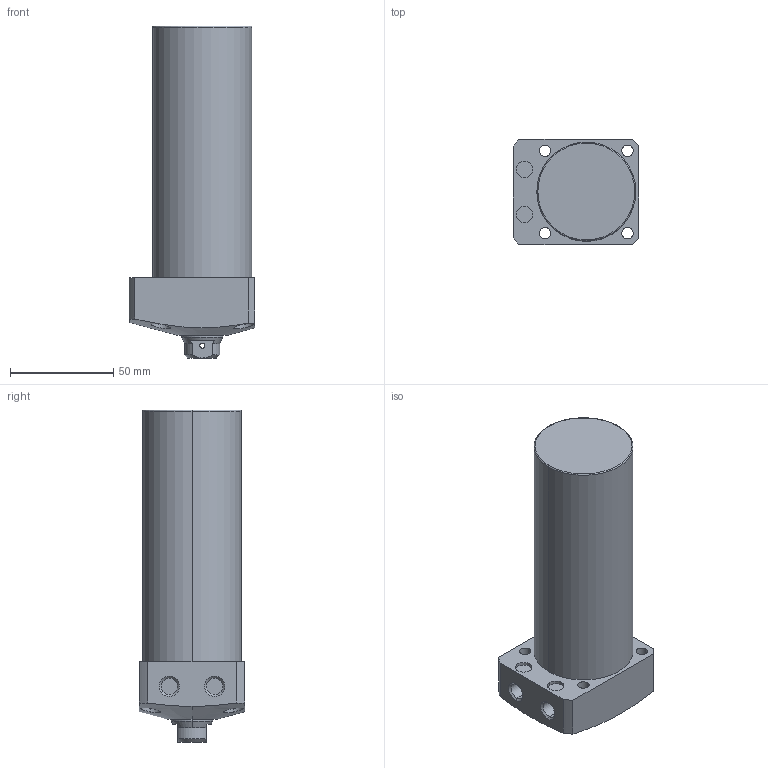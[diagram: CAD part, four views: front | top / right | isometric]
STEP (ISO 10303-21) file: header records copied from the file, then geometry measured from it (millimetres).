
FILE_DESCRIPTION (( 'STEP AP203' ), '1' );
FILE_NAME ('CLL048-CB-095.STEP', '2017-05-17T10:52:00', ( '' ), ( '' ), 'SwSTEP 2.0', 'SolidWorks 2015', '' );
FILE_SCHEMA (( 'CONFIG_CONTROL_DESIGN' ));
Length unit declared in the file: millimetre
Products named in the file (1): CLL048-CB-095
Bounding box: 61 x 51 x 161 mm (x, y, z)
Volume: 294930.4 mm3; surface area: 33212.2 mm2
Topology: 1 solids, 1 shells, 78 faces, 182 edges, 115 vertices
Faces by surface type: cylinder 39, plane 22, cone 15, torus 2
Entity records: 2751 total; most frequent: CARTESIAN_POINT 852, DIRECTION 394, ORIENTED_EDGE 360, EDGE_CURVE 180, AXIS2_PLACEMENT_3D 163, VERTEX_POINT 115, EDGE_LOOP 101, CIRCLE 84
